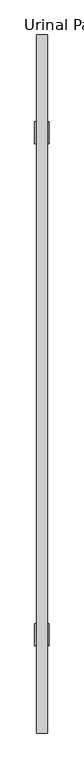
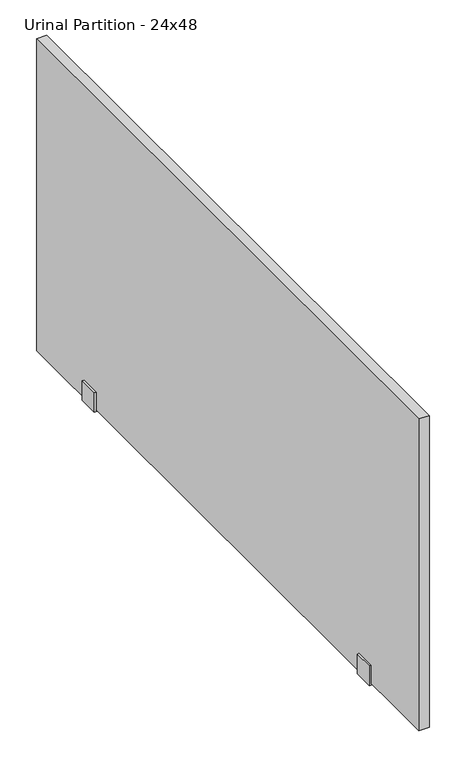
"""IFC4 building model written with IfcOpenShell, lengths in millimetres: proxy geometry, Urinal-Partition_Ironwood-Mfg : Urinal Partition - 24x48."""

from ifc_helpers import new_model, si_unit, frame, origin, place, context, project, spatial, polyline, outline, extrude, source, transform, mapped, element, save


def urinal_partition_24x48_73d95201(model_context):
    return source(origin(), model_context, "Body", "SweptSolid", [
        extrude(outline(polyline([(38.1, 9.525), (3.175, 9.525), (3.175, -9.525), (38.1, -9.525), (38.1, -12.7), (0.0, -12.7), (0.0, 12.7), (38.1, 12.7), (38.1, 9.525)])), frame((0.0, 1333.5, 0.0), z_axis=(0.0, 1.0, 0.0), x_axis=(0.0, 0.0, 1.0)), (0.0, 0.0, 1.0), 38.1),
        extrude(outline(polyline([(38.1, 9.525), (3.175, 9.525), (3.175, -9.525), (38.1, -9.525), (38.1, -12.7), (0.0, -12.7), (0.0, 12.7), (38.1, 12.7), (38.1, 9.525)])), frame((0.0, 457.2, 0.0), z_axis=(0.0, 1.0, 0.0), x_axis=(0.0, 0.0, 1.0)), (0.0, 0.0, 1.0), 38.1),
        extrude(outline(polyline([(-9.525, 304.8), (-9.525, 1523.1614427), (9.525, 1523.1614427), (9.525, 304.8), (-9.525, 304.8)])), frame((0.0, 0.0, 3.175), z_axis=(0.0, 0.0, 1.0), x_axis=(1.0, 0.0, 0.0)), (0.0, 0.0, 1.0), 606.425),
    ])


if __name__ == "__main__":
    model = new_model("IFC4")
    model_context = context("Model", 3, world=origin())
    ifc_project = project(units=[si_unit("LENGTHUNIT", "METRE", prefix="MILLI")], contexts=[model_context])
    site = spatial("IfcSite", under=ifc_project)
    building = spatial("IfcBuilding", under=site)
    placement = place(None, origin())
    urinal_partition_24x48_shape = urinal_partition_24x48_73d95201(model_context)
    element("IfcBuildingElementProxy", 1, Name="Urinal-Partition_Ironwood-Mfg : Urinal Partition - 24x48", ObjectType="Urinal-Partition_Ironwood-Mfg : Urinal Partition - 24x48", at=placement, inside=building, context=model_context, shape_type="MappedRepresentation", body=[
        mapped(urinal_partition_24x48_shape, transform((0.0, 0.0, 0.0), x_axis=(1.0, 0.0, 0.0), y_axis=(0.0, 1.0, 0.0), z_axis=(0.0, 0.0, 1.0))),
    ])
    save(model, "model.ifc")
